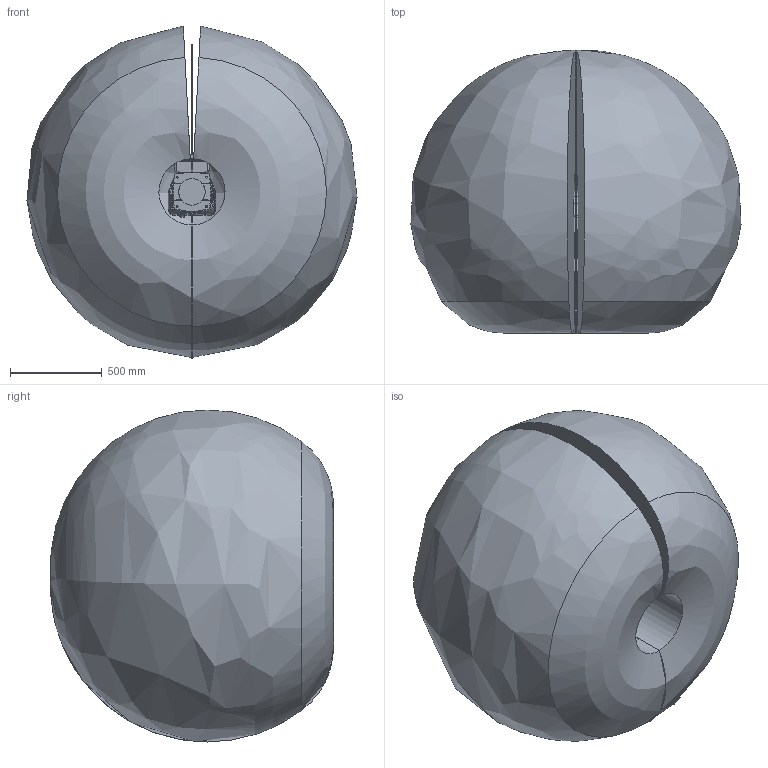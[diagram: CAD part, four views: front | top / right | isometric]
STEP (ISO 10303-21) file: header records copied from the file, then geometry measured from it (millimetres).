
FILE_DESCRIPTION((''),'2;1');
FILE_NAME('R7-900_ASM','2024-06-08T14:51:56',('HP'),(''),'CREO PARAMETRIC BY PTC INC, 2018260','CREO PARAMETRIC BY PTC INC, 2018260','');
FILE_SCHEMA(('CONFIG_CONTROL_DESIGN','SHAPE_APPEARANCE_LAYERS_GROUPS'));
Products named in the file (10): R7-900_BASE; R7-900_JOINT1; R7-900_JOINT2; R7-900_JOINT3; R7-900_JOINT4; R7-900_JOINT5; R7-900_JOINT6; R7-900_RANGE1; R7-900_RANGE2; R7-900_ASM
Assembly tree (9 placements, depth 2):
  R7-900_ASM
    R7-900_BASE
    R7-900_JOINT1
    R7-900_JOINT2
    R7-900_JOINT3
    R7-900_JOINT4
    R7-900_JOINT5
    R7-900_JOINT6
    R7-900_RANGE1
    R7-900_RANGE2
Bounding box: 1795.41 x 1539.67 x 1805.76 mm (x, y, z)
Volume: 2740831428.3 mm3; surface area: 17062232.3 mm2
Topology: 9 solids, 43 shells, 5870 faces, 14831 edges, 9109 vertices
Faces by surface type: bspline 1837, plane 1412, cylinder 1403, torus 653, cone 518, sphere 31, extrusion 16
Entity records: 286715 total; most frequent: CARTESIAN_POINT 162182, ORIENTED_EDGE 29244, DIRECTION 21294, EDGE_CURVE 14622, VERTEX_POINT 9109, AXIS2_PLACEMENT_3D 8651, EDGE_LOOP 6183, B_SPLINE_CURVE_WITH_KNOTS 6047
